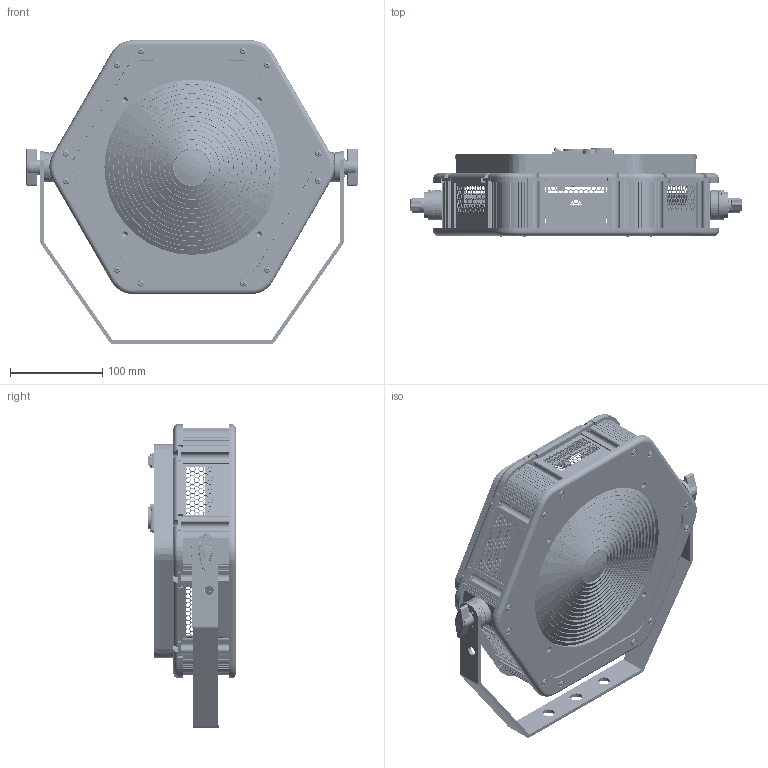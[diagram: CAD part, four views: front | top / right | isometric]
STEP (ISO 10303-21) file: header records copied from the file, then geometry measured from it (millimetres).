
FILE_DESCRIPTION((''),'2;1');
FILE_NAME('000_ASM','2025-05-17T15:22:26',('ALY'),(''),'CREO PARAMETRIC BY PTC INC, 2022164','CREO PARAMETRIC BY PTC INC, 2022164','');
FILE_SCHEMA(('AUTOMOTIVE_DESIGN { 1 0 10303 214 1 1 1 1 }'));
Products named in the file (27): 00; 000; 100; 200; 0005; 300W0001; 0009; 0010; 0012; M3X10-0001; M3X6-0001; 0007_ASM; M4X10-0001; 0014; M3X12-0001; M3X8-0001; M6X20T0001; 0015; 2000001; 0016; 000_ASM
Assembly tree (88 placements, depth 3):
  000_ASM
    00
    000
    100  x2
    200  x4
    0005  x6
    000
    0007_ASM
      000
      300W0001
      0009
      0010
      00
      0012
      M3X10-0001  x10
      M3X6-0001  x4
    M4X10-0001  x24
    00
    0014  x2
    100  x2
    M3X12-0001  x4
    200  x2
    M3X8-0001  x4
    M6X20T0001  x2
    M3X10-0001  x2
    M3X6-0001  x6
    0015
    2000001
    0016
Bounding box: 360 x 96.27 x 329.28 mm (x, y, z)
Volume: 1035880.3 mm3; surface area: 765608.3 mm2
Topology: 103 solids, 105 shells, 11651 faces, 31769 edges, 20417 vertices
Faces by surface type: plane 6224, cylinder 3324, bspline 1096, cone 575, torus 346, sphere 70, extrusion 16
Entity records: 233457 total; most frequent: CARTESIAN_POINT 61779, ORIENTED_EDGE 26162, DIRECTION 23941, EDGE_CURVE 13081, PRESENTATION_STYLE_ASSIGNMENT 11407, STYLED_ITEM 10726, CURVE_STYLE 9389, VERTEX_POINT 8450
